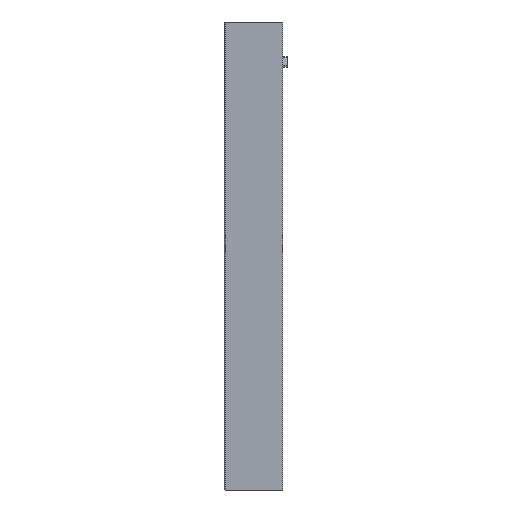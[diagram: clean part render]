
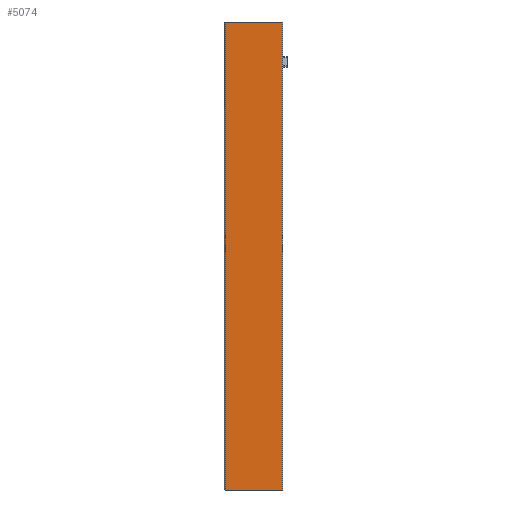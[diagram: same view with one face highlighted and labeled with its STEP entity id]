
A CAD part, left-side view. The second image highlights one B-rep face of the part: STEP entity #5074.
In plain terms, the highlighted planar face has unit normal (-1, 0, 0).
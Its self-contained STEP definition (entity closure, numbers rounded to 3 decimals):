
#89 = CARTESIAN_POINT ( 'NONE',  ( -12.5, 30.3, -562.455 ) ) ;
#515 = EDGE_CURVE ( 'NONE', #4882, #10817, #8246, .T. ) ;
#924 = LINE ( 'NONE', #89, #7387 ) ;
#1012 = FACE_OUTER_BOUND ( 'NONE', #1794, .T. ) ;
#1028 = ORIENTED_EDGE ( 'NONE', *, *, #7049, .F. ) ;
#1141 = AXIS2_PLACEMENT_3D ( 'NONE', #8543, #1526, #10324 ) ;
#1181 = LINE ( 'NONE', #3386, #10242 ) ;
#1526 = DIRECTION ( 'NONE',  ( -1., 0., 0. ) ) ;
#1794 = EDGE_LOOP ( 'NONE', ( #1028, #8472, #2791, #2858 ) ) ;
#2182 = EDGE_CURVE ( 'NONE', #10817, #9212, #1181, .T. ) ;
#2791 = ORIENTED_EDGE ( 'NONE', *, *, #2182, .T. ) ;
#2858 = ORIENTED_EDGE ( 'NONE', *, *, #11297, .F. ) ;
#3386 = CARTESIAN_POINT ( 'NONE',  ( -12.5, -30.66, -562.455 ) ) ;
#3705 = CARTESIAN_POINT ( 'NONE',  ( -12.5, 55.8, 0. ) ) ;
#4144 = CARTESIAN_POINT ( 'NONE',  ( -12.5, 30.3, 0. ) ) ;
#4209 = VECTOR ( 'NONE', #5430, 1000. ) ;
#4882 = VERTEX_POINT ( 'NONE', #8288 ) ;
#5074 = ADVANCED_FACE ( 'NONE', ( #1012 ), #9416, .T. ) ;
#5210 = DIRECTION ( 'NONE',  ( 0., 0., 1. ) ) ;
#5430 = DIRECTION ( 'NONE',  ( 0., -1., 0. ) ) ;
#6070 = DIRECTION ( 'NONE',  ( 0., -1., 0. ) ) ;
#7049 = EDGE_CURVE ( 'NONE', #4882, #11090, #924, .T. ) ;
#7387 = VECTOR ( 'NONE', #8016, 1000. ) ;
#8016 = DIRECTION ( 'NONE',  ( 0., 0., 1. ) ) ;
#8246 = LINE ( 'NONE', #11319, #8502 ) ;
#8288 = CARTESIAN_POINT ( 'NONE',  ( -12.5, 30.3, -499. ) ) ;
#8472 = ORIENTED_EDGE ( 'NONE', *, *, #515, .T. ) ;
#8502 = VECTOR ( 'NONE', #6070, 1000. ) ;
#8543 = CARTESIAN_POINT ( 'NONE',  ( -12.5, 55.8, -562.455 ) ) ;
#9212 = VERTEX_POINT ( 'NONE', #9630 ) ;
#9416 = PLANE ( 'NONE',  #1141 ) ;
#9630 = CARTESIAN_POINT ( 'NONE',  ( -12.5, -30.66, 0. ) ) ;
#9817 = CARTESIAN_POINT ( 'NONE',  ( -12.5, -30.66, -499. ) ) ;
#10242 = VECTOR ( 'NONE', #5210, 1000. ) ;
#10324 = DIRECTION ( 'NONE',  ( 0., 1., 0. ) ) ;
#10817 = VERTEX_POINT ( 'NONE', #9817 ) ;
#11090 = VERTEX_POINT ( 'NONE', #4144 ) ;
#11208 = LINE ( 'NONE', #3705, #4209 ) ;
#11297 = EDGE_CURVE ( 'NONE', #11090, #9212, #11208, .T. ) ;
#11319 = CARTESIAN_POINT ( 'NONE',  ( -12.5, 56.8, -499. ) ) ;
